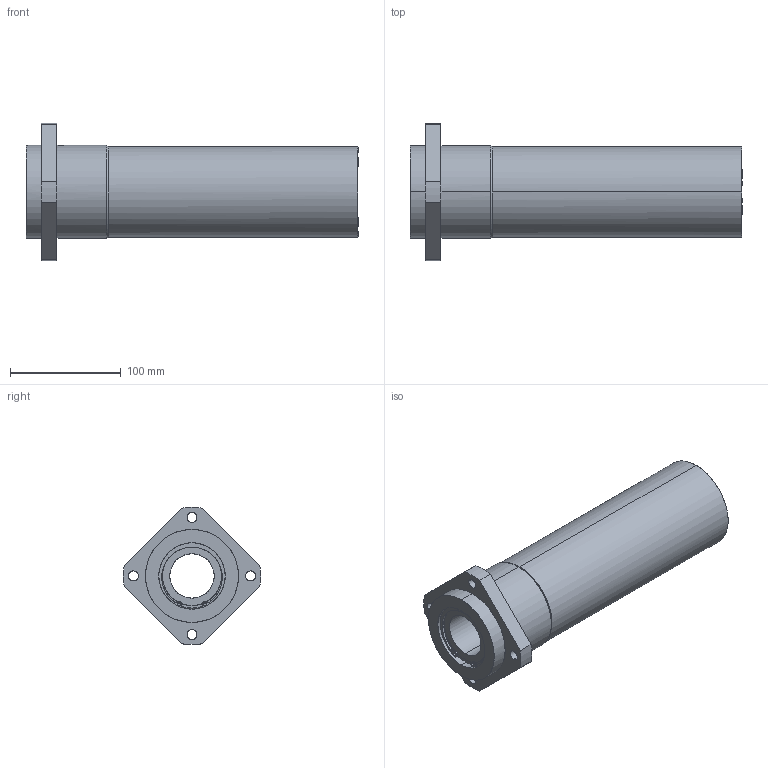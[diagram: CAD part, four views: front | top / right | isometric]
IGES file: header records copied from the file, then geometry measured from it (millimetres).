
Global section: file name: No Iges File Name specified; native system: AutoDesk Inventor R11.0; preprocessor: AutoDesk Inventor Iges Exporter R11.0; author: No Author specified; organization: No Organization specified; date: 20170922.141147; units: millimetre
Bounding box: 300 x 123.84 x 123.92 mm (x, y, z)
Surface area: 148497.7 mm2 (no closed solid volume)
Topology: 0 solids, 0 shells, 133 faces, 948 edges, 948 vertices
Faces by surface type: bspline 133
